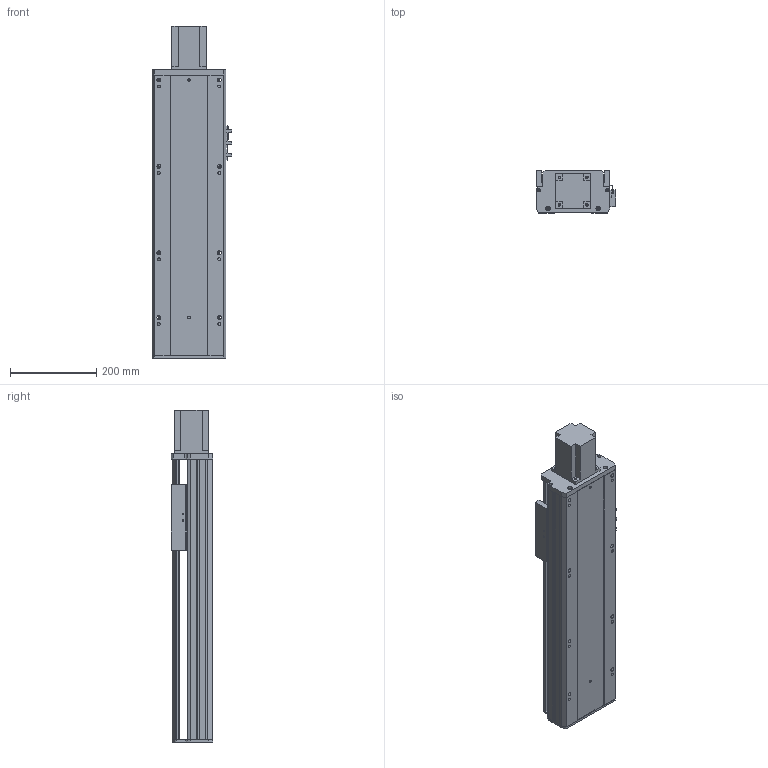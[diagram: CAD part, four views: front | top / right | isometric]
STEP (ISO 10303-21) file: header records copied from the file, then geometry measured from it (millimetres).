
FILE_DESCRIPTION (( 'STEP AP203' ), '1' );
FILE_NAME ('Y170-D10-S400-BD-P750W.STEP', '2020-01-22T03:56:32', ( '微软用户' ), ( '微软中国' ), 'SwSTEP 2.0', 'SolidWorks 2017', '' );
FILE_SCHEMA (( 'CONFIG_CONTROL_DESIGN' ));
Length unit declared in the file: millimetre
Products named in the file (10): Y170耜裔--準---; Y170-陔遴奻裔-BD; Y170--雄赽釱-梓--; YD-Y100-135-新外置传感挡片(通用）; Y170-D10-S400-BD-P750W; Y100-135俋离換覜ん; 170--掛极-BD; Y170-萇儂楊擘啣--; 135-盓傅釱-FK15; 侂狟750W
Assembly tree (11 placements, depth 2):
  Y170-D10-S400-BD-P750W
    YD-Y100-135-新外置传感挡片(通用）
    Y100-135俋离換覜ん  x3
    170--掛极-BD
    Y170-萇儂楊擘啣--
    135-盓傅釱-FK15
    侂狟750W
    Y170耜裔--準---
    Y170-陔遴奻裔-BD
    Y170--雄赽釱-梓--
Bounding box: 183.5 x 97 x 768.5 mm (x, y, z)
Volume: 3618597.7 mm3; surface area: 1135966.2 mm2
Topology: 11 solids, 11 shells, 792 faces, 2211 edges, 1464 vertices
Faces by surface type: cylinder 402, plane 388, torus 2
Entity records: 25311 total; most frequent: CARTESIAN_POINT 4387, DIRECTION 4265, ORIENTED_EDGE 4086, EDGE_CURVE 2043, AXIS2_PLACEMENT_3D 1526, VERTEX_POINT 1352, LINE 1213, VECTOR 1213
